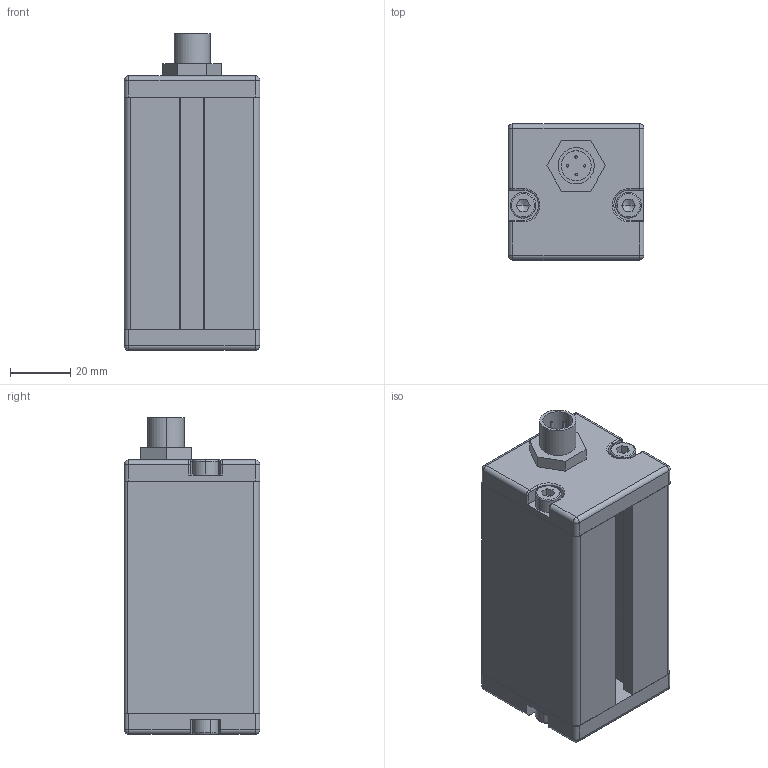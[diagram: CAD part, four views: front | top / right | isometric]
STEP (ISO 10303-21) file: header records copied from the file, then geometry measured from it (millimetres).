
FILE_DESCRIPTION (( 'STEP AP214' ), '1' );
FILE_NAME ('NBAR3.STEP', '2012-01-13T13:45:49', ( 'JRLEDS' ), ( '' ), 'SwSTEP 2.0', 'SolidWorks 2010', '' );
FILE_SCHEMA (( 'AUTOMOTIVE_DESIGN' ));
Length unit declared in the file: millimetre
Products named in the file (8): PROF-NBAR3; CIR3LED; Embout ALU; PROT-NBAR3; screw_din_912-m5x0_8-10-8_8_Default; Embout percé ALU; SW3DPS-FISCHER_DBP_103_Z053-130-DEFAULT; NBAR3
Assembly tree (10 placements, depth 2):
  NBAR3
    screw_din_912-m5x0_8-10-8_8_Default  x4
    PROT-NBAR3
    CIR3LED
    Embout ALU
    Embout percé ALU
    PROF-NBAR3
    SW3DPS-FISCHER_DBP_103_Z053-130-DEFAULT
Bounding box: 45.1 x 45 x 105 mm (x, y, z)
Volume: 78607.1 mm3; surface area: 63053.1 mm2
Topology: 13 solids, 13 shells, 288 faces, 701 edges, 438 vertices
Faces by surface type: plane 153, cylinder 97, cone 16, torus 14, sphere 8
Entity records: 8525 total; most frequent: DIRECTION 1229, CARTESIAN_POINT 1218, ORIENTED_EDGE 1130, EDGE_CURVE 565, AXIS2_PLACEMENT_3D 426, LINE 377, VECTOR 377, VERTEX_POINT 363
